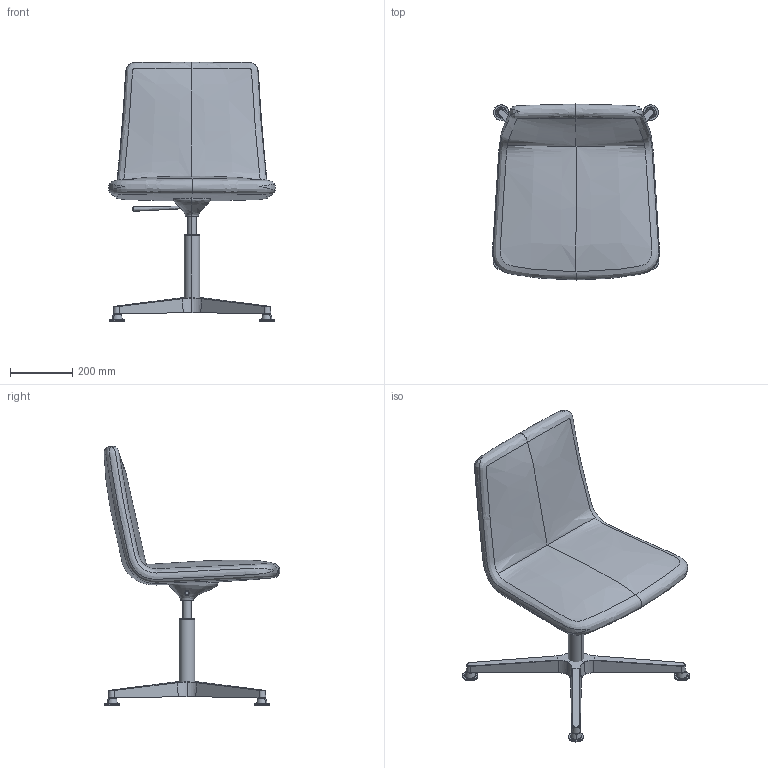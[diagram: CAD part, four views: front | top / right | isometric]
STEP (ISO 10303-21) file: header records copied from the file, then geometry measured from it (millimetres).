
FILE_DESCRIPTION(/* description */ (''),/* implementation_level */ '2;1');
FILE_NAME(/* name */ 'HA89F2~1',/* time_stamp */ '2016-07-26T15:58:14+02:00',/* author */ (''),/* organization */ (''),/* preprocessor_version */ 'ST-DEVELOPER v15',/* originating_system */ '',/* authorisation */ '');
FILE_SCHEMA (('CONFIG_CONTROL_DESIGN'));
Length unit declared in the file: millimetre
Products named in the file (1): Document
Bounding box: 537.03 x 564.98 x 833.79 mm (x, y, z)
Surface area: 1133213.2 mm2 (no closed solid volume)
Topology: 0 solids, 17 shells, 133 faces, 302 edges, 180 vertices
Faces by surface type: bspline 118, plane 15
Entity records: 11047 total; most frequent: CARTESIAN_POINT 9251, ORIENTED_EDGE 520, EDGE_CURVE 295, B_SPLINE_CURVE_WITH_KNOTS 195, VERTEX_POINT 174, EDGE_LOOP 135, ADVANCED_FACE 133, FACE_OUTER_BOUND 133
